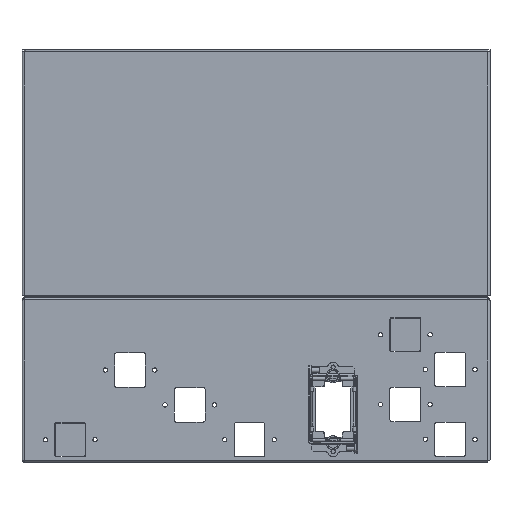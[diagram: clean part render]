
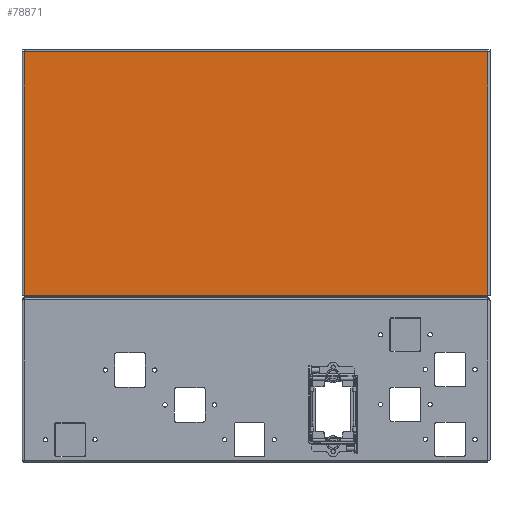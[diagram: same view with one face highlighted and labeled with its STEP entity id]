
A CAD part, top view. The second image highlights one B-rep face of the part: STEP entity #78871.
In plain terms, the highlighted planar face has unit normal (0, 0, 1).
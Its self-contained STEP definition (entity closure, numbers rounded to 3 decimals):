
#78206=CARTESIAN_POINT(' ',(-232.9,122.5,0.));
#78211=DIRECTION(' ',(0.,-1.,0.));
#78216=VECTOR(' ',#78211,1.);
#78221=LINE('',#78206,#78216);
#78226=CARTESIAN_POINT(' ',(-232.9,122.5,0.));
#78227=VERTEX_POINT(' ',#78226);
#78231=CARTESIAN_POINT(' ',(-232.9,-122.5,0.));
#78232=VERTEX_POINT(' ',#78231);
#78236=EDGE_CURVE(' ',#78227,#78232,#78221,.T.);
#78731=DIRECTION(' ',(0.,-0.,1.));
#78736=CARTESIAN_POINT(' ',(-232.9,-122.5,0.));
#78741=DIRECTION(' ',(1.,0.,-0.));
#78746=AXIS2_PLACEMENT_3D(' ',#78736,#78731,#78741);
#78751=PLANE('NONE',#78746);
#78756=ORIENTED_EDGE(' ',*,*,#78236,.T.);
#78761=CARTESIAN_POINT(' ',(-232.9,-122.5,0.));
#78766=DIRECTION(' ',(1.,0.,0.));
#78771=VECTOR(' ',#78766,1.);
#78776=LINE('',#78761,#78771);
#78781=CARTESIAN_POINT(' ',(232.9,-122.5,0.));
#78782=VERTEX_POINT(' ',#78781);
#78786=EDGE_CURVE(' ',#78232,#78782,#78776,.T.);
#78791=ORIENTED_EDGE(' ',*,*,#78786,.T.);
#78796=CARTESIAN_POINT(' ',(232.9,-122.5,0.));
#78801=DIRECTION(' ',(0.,1.,0.));
#78806=VECTOR(' ',#78801,1.);
#78811=LINE('',#78796,#78806);
#78816=CARTESIAN_POINT(' ',(232.9,122.5,0.));
#78817=VERTEX_POINT(' ',#78816);
#78821=EDGE_CURVE(' ',#78782,#78817,#78811,.T.);
#78826=ORIENTED_EDGE(' ',*,*,#78821,.T.);
#78831=CARTESIAN_POINT(' ',(232.9,122.5,0.));
#78836=DIRECTION(' ',(-1.,0.,0.));
#78841=VECTOR(' ',#78836,1.);
#78846=LINE('',#78831,#78841);
#78851=EDGE_CURVE(' ',#78817,#78227,#78846,.T.);
#78856=ORIENTED_EDGE(' ',*,*,#78851,.T.);
#78861=EDGE_LOOP(' ',(#78756,#78791,#78826,#78856));
#78866=FACE_OUTER_BOUND(' ',#78861,.T.);
#78871=ADVANCED_FACE('NONE',(#78866),#78751,.T.);
